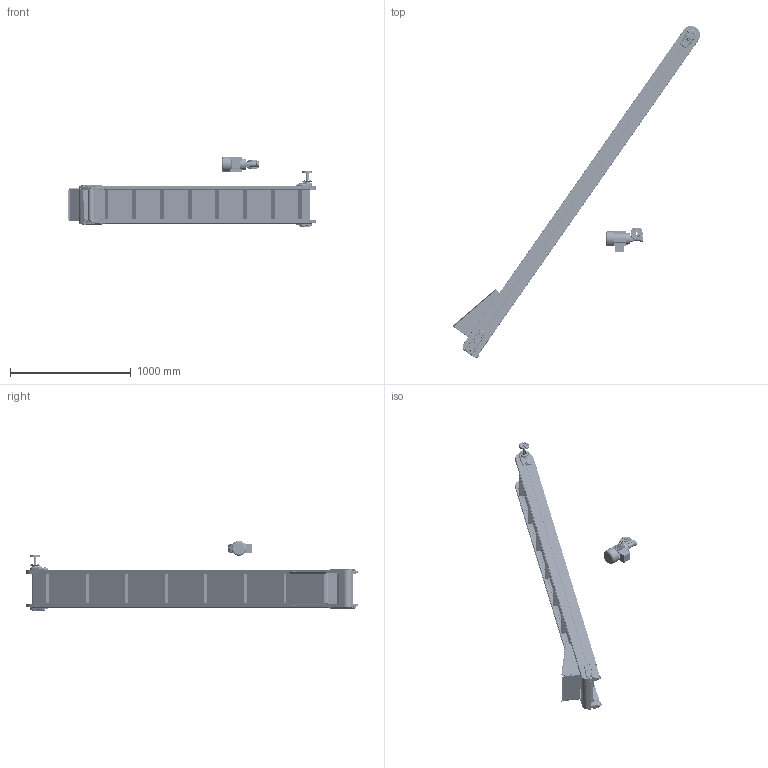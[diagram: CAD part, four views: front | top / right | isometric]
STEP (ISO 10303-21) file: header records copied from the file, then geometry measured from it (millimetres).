
FILE_DESCRIPTION (( 'STEP AP203' ), '1' );
FILE_NAME ('NASTRO_STAMPAGGIO_PLASTICA.step', '2026-04-28T19:48:15', ( 'Utente Windows' ), ( '' ), 'SwSTEP 2.0', 'SolidWorks 2024', '' );
FILE_SCHEMA (( 'CONFIG_CONTROL_DESIGN' ));
Length unit declared in the file: millimetre
Products named in the file (41): TELAIO_D_Default<A macchina>; 084.301.000 VITI ALUSIC_084.301.003; VITI TE UNI 5739_M6x120 UNI5739; 084.831.023; NASTRO_STAMPAGGIO_PLASTICA; RONDELLE UNI 6592_6.4x12.5 UNI 6592; 084.831.063; VITI TE UNI 5739_M8x35 UNI 5739; 084.831.024; 084.802.071; 084.831.003.250; 084.831.KI.250; 084.302.038_084.302.004; 084.831.040.250; 084.831.059; VITI TCEI UNI 5931_M5x12 UNI 5931; 0412TRSEA2; 084.831.064; 084.802.061; RONDELLE UNI 6592_8.4x17 UNI 6592; 084.802.034_084.802.034; 084.831.001_Default<A macchina>; VITI TESTA BOMBATA ISO 730 INOX_M5x10 ISO 7380 INOX; 361102 serie 36; 084.831.020.300; TAPPETO_D; VITI TE UNI 5739_M8x12 UNI 5739; DADI ESAGONALI NORMALI UNI 5588_M5 UNI 5588; 084.831.017; 084.831.KD.44.250_DX; CHIAVETTE_A 6x6x60 UNI 6604-69; CH04P_DX; RONDELLE FASCIA LARGA UNI 6593_6.4x24 UNI 6593; 084.808.012; 084.831.018.300; 084.802.062; 084.831.004; VITI TE UNI 5739_M6x16 UNI 5739; 084.803.018; 084.831.031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
Assembly tree (98 placements, depth 3):
  NASTRO_STAMPAGGIO_PLASTICA
    TAPPETO_D
    TELAIO_D_Default<A macchina>
    084.831.KD.44.250_DX
      084.831.004  x2
      084.831.020.300
      084.831.017  x2
      084.802.071
      084.301.000 VITI ALUSIC_084.301.003
      084.802.034_084.802.034  x2
      084.802.061
      VITI TE UNI 5739_M6x16 UNI 5739  x5
      CHIAVETTE_A 6x6x60 UNI 6604-69
      RONDELLE FASCIA LARGA UNI 6593_6.4x24 UNI 6593
      084.808.012
      RONDELLE UNI 6592_8.4x17 UNI 6592
      084.802.062
      084.803.018
      0412TRSEA2  x10
      VITI TCEI UNI 5931_M5x12 UNI 5931  x4
      VITI TE UNI 5739_M8x35 UNI 5739
      084.302.038_084.302.004  x2
    CH04P_DX
    084.831.003.250
      084.831.064
      084.831.059
      084.831.063
      VITI TESTA BOMBATA ISO 730 INOX_M5x10 ISO 7380 INOX  x6
      DADI ESAGONALI NORMALI UNI 5588_M5 UNI 5588  x6
      VITI TE UNI 5739_M8x12 UNI 5739  x4
      084.302.000 DADI ALUSIC 13x13-1_084.302.009  x4
    084.831.KI.250
      084.831.001_Default<A macchina>  x2
      084.831.024  x2
      361102 serie 36  x2
      084.831.018.300
      VITI TE UNI 5739_M6x120 UNI5739  x2
      RONDELLE UNI 6592_6.4x12.5 UNI 6592  x2
      084.301.000 VITI ALUSIC_084.301.003  x2
      084.831.031
      084.831.040.250
      084.831.023  x4
      0412TRSEA2  x12
Bounding box: 2056.49 x 2749.82 x 580.2 mm (x, y, z)
Volume: 17394227.3 mm3; surface area: 14829397.1 mm2
Topology: 138 solids, 145 shells, 9804 faces, 26034 edges, 16649 vertices
Faces by surface type: plane 4177, cylinder 2969, cone 1284, bspline 833, torus 417, sphere 124
Entity records: 230793 total; most frequent: CARTESIAN_POINT 73668, ORIENTED_EDGE 33452, DIRECTION 29670, EDGE_CURVE 16726, VERTEX_POINT 10750, AXIS2_PLACEMENT_3D 10500, LINE 8670, VECTOR 8670
